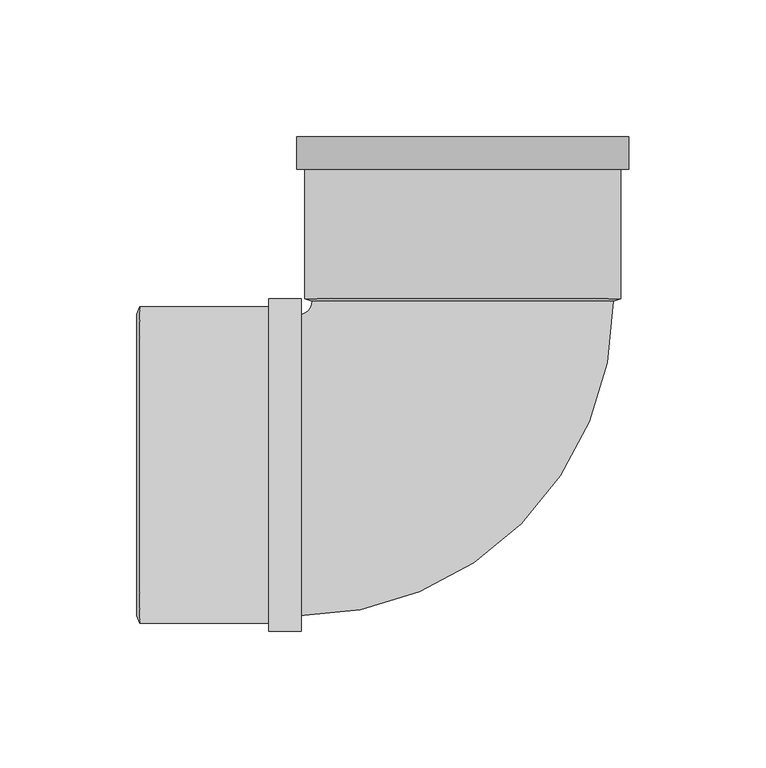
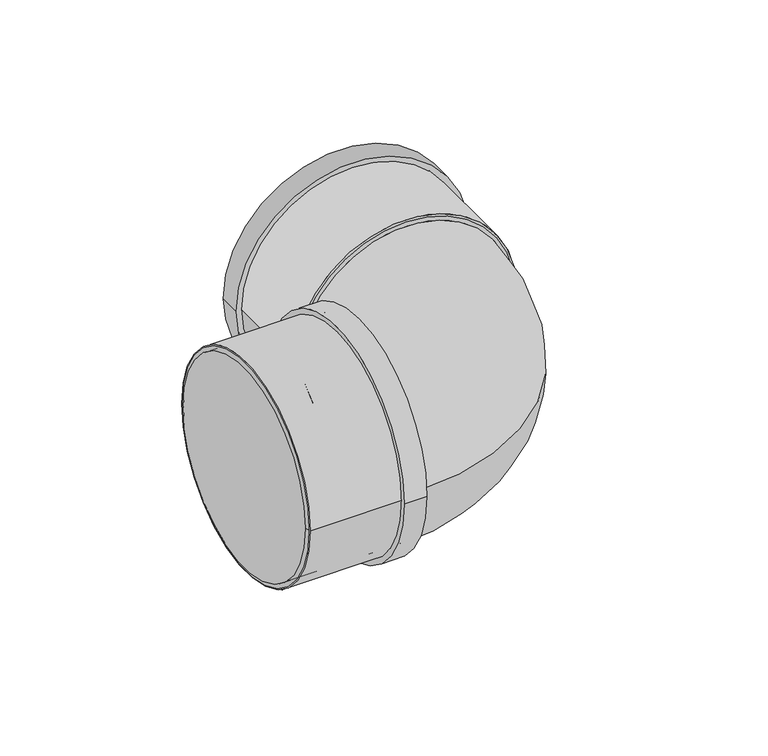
"""IFC4 building model written with IfcOpenShell, lengths in millimetres: pipe fitting geometry, Superdrain SK Bend_Composite 2x45 : Superdrain SK Bend_Composite 2x45."""

from ifc_helpers import new_model, si_unit, point, frame, origin, origin_2d, place, context, project, spatial, polyline, circle_curve, ellipse_curve, trimmed, segment, composite_curve, outline, extrude, source, transform, mapped, element, save
from ifc_brep_helpers import plane_surface, revolved_surface, advanced_brep


def pipe_fitting_02e017e1(model_context):
    return source(origin(), model_context, "Body", "SolidModel", [
        extrude(outline(composite_curve([segment(trimmed(circle_curve(origin_2d(), 57.75), [point((57.75, 0.0))], [point((-57.75, 0.0))], False, "CARTESIAN"), True, "CONTINUOUS"), segment(trimmed(circle_curve(origin_2d(), 57.75), [point((-57.75, 0.0))], [point((57.75, 0.0))], False, "CARTESIAN"), True, "CONTINUOUS")], self_intersect=False), holes=[composite_curve([segment(trimmed(circle_curve(origin_2d(), 55.0), [point((55.0, 0.0))], [point((-55.0, 0.0))], True, "CARTESIAN"), True, "CONTINUOUS"), segment(trimmed(circle_curve(origin_2d(), 55.0), [point((-55.0, 0.0))], [point((55.0, 0.0))], True, "CARTESIAN"), True, "CONTINUOUS")], self_intersect=False)]), frame((-118.0, 0.0, 0.0), z_axis=(1.0, 0.0, 0.0), x_axis=(0.0, 1.0, 0.0)), (0.0, 0.0, 1.0), 59.0),
        extrude(outline(composite_curve([segment(trimmed(circle_curve(origin_2d(), 60.6375), [point((60.6375, 0.0))], [point((-60.6375, 0.0))], False, "CARTESIAN"), True, "CONTINUOUS"), segment(trimmed(circle_curve(origin_2d(), 60.6375), [point((-60.6375, 0.0))], [point((60.6375, 0.0))], False, "CARTESIAN"), True, "CONTINUOUS")], self_intersect=False), holes=[composite_curve([segment(trimmed(circle_curve(origin_2d(), 55.0), [point((55.0, 0.0))], [point((-55.0, 0.0))], True, "CARTESIAN"), True, "CONTINUOUS"), segment(trimmed(circle_curve(origin_2d(), 55.0), [point((-55.0, 0.0))], [point((55.0, 0.0))], True, "CARTESIAN"), True, "CONTINUOUS")], self_intersect=False)]), frame((-70.8, 0.0, 0.0), z_axis=(1.0, 0.0, 0.0), x_axis=(0.0, 1.0, 0.0)), (0.0, 0.0, 1.0), 11.8),
        advanced_brep(
        [(-119.0, 55.0, 0.0), (-119.0, -55.0, 0.0), (-118.0, 57.75, 0.0), (-118.0, -57.75, 0.0)],
        [
            (0, 1, circle_curve(frame((-119.0, 0.0, 0.0), z_axis=(-1.0, 0.0, 0.0), x_axis=(0.0, 1.0, 0.0)), 55.0)),
            (1, 0, circle_curve(frame((-119.0, 0.0, 0.0), z_axis=(-1.0, 0.0, 0.0), x_axis=(0.0, -1.0, 0.0)), 55.0)),
            (2, 3, circle_curve(frame((-118.0, 0.0, 0.0), z_axis=(1.0, 0.0, 0.0), x_axis=(0.0, -1.0, 0.0)), 57.75)),
            (3, 2, circle_curve(frame((-118.0, 0.0, 0.0), z_axis=(1.0, 0.0, 0.0), x_axis=(0.0, 1.0, 0.0)), 57.75)),
            (3, 1),
            (0, 2),
        ],
        [
            plane_surface(frame((-119.0, 0.0, 0.0), z_axis=(-1.0, 0.0, 0.0), x_axis=(0.0, 0.0, -1.0))),
            plane_surface(frame((-118.0, 0.0, 0.0), z_axis=(1.0, 0.0, 0.0), x_axis=(0.0, 0.0, -1.0))),
            revolved_surface(polyline([(-119.0, 55.0, 0.0), (-118.0, 57.75, 0.0)]), (-139.0, 0.0, 0.0), (1.0, 0.0, 0.0)),
            revolved_surface(polyline([(-119.0, -55.0, 0.0), (-118.0, -57.75, 0.0)]), (-139.0, 0.0, 0.0), (1.0, 0.0, 0.0)),
        ],
        [
            (0, [[1, 2]]),
            (1, [[3, 4]]),
            (2, [[-4, 5, -1, 6]]),
            (3, [[-3, -6, -2, -5]]),
        ],
    ),
        advanced_brep(
        [(55.0, 59.8, 0.0), (-55.0, 59.8, 0.0), (-59.8, -55.0, 0.0), (-59.8, 55.0, 0.0)],
        [
            (0, 1, circle_curve(frame((0.0, 59.8, 0.0), z_axis=(0.0, 1.0, 0.0), x_axis=(-1.0, 0.0, 0.0)), 55.0)),
            (1, 0, circle_curve(frame((0.0, 59.8, 0.0), z_axis=(0.0, 1.0, 0.0), x_axis=(-1.0, 0.0, 0.0)), 55.0)),
            (2, 3, circle_curve(frame((-59.8, 0.0, 0.0), z_axis=(-1.0, 0.0, 0.0), x_axis=(0.0, 1.0, 0.0)), 55.0)),
            (3, 2, circle_curve(frame((-59.8, 0.0, 0.0), z_axis=(-1.0, 0.0, 0.0), x_axis=(0.0, 1.0, 0.0)), 55.0)),
            (3, 1, circle_curve(frame((-59.8, 59.8, 0.0), z_axis=(0.0, 0.0, 1.0), x_axis=(1.0, 0.0, 0.0)), 4.8)),
            (0, 2, circle_curve(frame((-59.8, 59.8, 0.0), z_axis=(0.0, 0.0, -1.0), x_axis=(1.0, 0.0, 0.0)), 114.8)),
        ],
        [
            plane_surface(frame((0.0, 59.8, 0.0), z_axis=(0.0, 1.0, 0.0), x_axis=(0.0, 0.0, -1.0))),
            plane_surface(frame((-59.8, 0.0, 0.0), z_axis=(-1.0, 0.0, 0.0), x_axis=(0.0, 0.0, -1.0))),
            revolved_surface(trimmed(ellipse_curve(frame((0.0, 59.8, 0.0), z_axis=(0.0, -1.0, 0.0), x_axis=(-1.0, 0.0, 0.0)), 55.0, 55.0), [point((-55.0, 59.8, 0.0))], [point((55.0, 59.8, 0.0))], True, "CARTESIAN"), (-59.8, 59.8, 0.0), (0.0, 0.0, 1.0)),
            revolved_surface(trimmed(ellipse_curve(frame((0.0, 59.8, 0.0), z_axis=(0.0, -1.0, 0.0), x_axis=(-1.0, 0.0, 0.0)), 55.0, 55.0), [point((55.0, 59.8, 0.0))], [point((-55.0, 59.8, 0.0))], True, "CARTESIAN"), (-59.8, 59.8, 0.0), (0.0, 0.0, 1.0)),
        ],
        [
            (0, [[1, 2]]),
            (1, [[3, 4]]),
            (2, [[-4, 5, -1, 6]]),
            (3, [[-3, -6, -2, -5]]),
        ],
    ),
        extrude(outline(composite_curve([segment(trimmed(circle_curve(origin_2d(), 57.75), [point((0.0, 57.75))], [point((0.0, -57.75))], False, "CARTESIAN"), True, "CONTINUOUS"), segment(trimmed(circle_curve(origin_2d(), 57.75), [point((0.0, -57.75))], [point((0.0, 57.75))], False, "CARTESIAN"), True, "CONTINUOUS")], self_intersect=False), holes=[composite_curve([segment(trimmed(circle_curve(origin_2d(), 55.0), [point((0.0, 55.0))], [point((0.0, -55.0))], True, "CARTESIAN"), True, "CONTINUOUS"), segment(trimmed(circle_curve(origin_2d(), 55.0), [point((0.0, -55.0))], [point((0.0, 55.0))], True, "CARTESIAN"), True, "CONTINUOUS")], self_intersect=False)]), frame((0.0, 60.8, 0.0), z_axis=(0.0, 1.0, 0.0), x_axis=(0.0, 0.0, 1.0)), (0.0, 0.0, 1.0), 59.0),
        extrude(outline(composite_curve([segment(trimmed(circle_curve(origin_2d(), 60.6375), [point((0.0, -60.6375))], [point((0.0, 60.6375))], False, "CARTESIAN"), True, "CONTINUOUS"), segment(trimmed(circle_curve(origin_2d(), 60.6375), [point((0.0, 60.6375))], [point((0.0, -60.6375))], False, "CARTESIAN"), True, "CONTINUOUS")], self_intersect=False), holes=[composite_curve([segment(trimmed(circle_curve(origin_2d(), 55.0), [point((0.0, -55.0))], [point((0.0, 55.0))], True, "CARTESIAN"), True, "CONTINUOUS"), segment(trimmed(circle_curve(origin_2d(), 55.0), [point((0.0, 55.0))], [point((0.0, -55.0))], True, "CARTESIAN"), True, "CONTINUOUS")], self_intersect=False)]), frame((0.0, 108.0, 0.0), z_axis=(0.0, 1.0, 0.0), x_axis=(0.0, 0.0, 1.0)), (0.0, 0.0, 1.0), 11.8),
        advanced_brep(
        [(57.75, 60.8, 0.0), (-57.75, 60.8, 0.0), (55.0, 59.8, 0.0), (-55.0, 59.8, 0.0)],
        [
            (0, 1, circle_curve(frame((0.0, 60.8, 0.0), z_axis=(0.0, 1.0, 0.0), x_axis=(1.0, 0.0, 0.0)), 57.75)),
            (1, 0, circle_curve(frame((0.0, 60.8, 0.0), z_axis=(0.0, 1.0, 0.0), x_axis=(-1.0, 0.0, 0.0)), 57.75)),
            (2, 3, circle_curve(frame((0.0, 59.8, 0.0), z_axis=(0.0, -1.0, 0.0), x_axis=(-1.0, 0.0, 0.0)), 55.0)),
            (3, 2, circle_curve(frame((0.0, 59.8, 0.0), z_axis=(0.0, -1.0, 0.0), x_axis=(1.0, 0.0, 0.0)), 55.0)),
            (3, 1),
            (0, 2),
        ],
        [
            plane_surface(frame((0.0, 60.8, 0.0), z_axis=(0.0, 1.0, 0.0), x_axis=(0.0, 0.0, -1.0))),
            plane_surface(frame((0.0, 59.8, 0.0), z_axis=(0.0, -1.0, 0.0), x_axis=(0.0, 0.0, -1.0))),
            revolved_surface(polyline([(-55.0, 59.8, 0.0), (-57.75, 60.8, 0.0)]), (0.0, 39.8, 0.0), (0.0, 1.0, 0.0)),
            revolved_surface(polyline([(55.0, 59.8, 0.0), (57.75, 60.8, 0.0)]), (0.0, 39.8, 0.0), (0.0, 1.0, 0.0)),
        ],
        [
            (0, [[1, 2]]),
            (1, [[3, 4]]),
            (2, [[-4, 5, -1, 6]]),
            (3, [[-3, -6, -2, -5]]),
        ],
    ),
        extrude(outline(composite_curve([segment(trimmed(circle_curve(origin_2d(), 55.0), [point((-55.0, 0.0))], [point((55.0, 0.0))], False, "CARTESIAN"), True, "CONTINUOUS"), segment(trimmed(circle_curve(origin_2d(), 55.0), [point((55.0, 0.0))], [point((-55.0, 0.0))], False, "CARTESIAN"), True, "CONTINUOUS")], self_intersect=False)), frame((-118.0, 0.0, 0.0), z_axis=(1.0, 0.0, 0.0), x_axis=(0.0, 1.0, 0.0)), (0.0, 0.0, 1.0), 58.2),
    ])


if __name__ == "__main__":
    model = new_model("IFC4")
    model_context = context("Model", 3, world=origin())
    ifc_project = project(units=[si_unit("LENGTHUNIT", "METRE", prefix="MILLI")], contexts=[model_context])
    site = spatial("IfcSite", under=ifc_project)
    building = spatial("IfcBuilding", under=site)
    placement = place(None, origin())
    pipe_fitting_shape = pipe_fitting_02e017e1(model_context)
    element("IfcPipeFitting", 1, ObjectType="Superdrain SK Bend_Composite 2x45 : Superdrain SK Bend_Composite 2x45", at=placement, inside=building, context=model_context, shape_type="MappedRepresentation", body=[
        mapped(pipe_fitting_shape, transform((0.0, 0.0, 0.0), x_axis=(1.0, 0.0, 0.0), y_axis=(0.0, 1.0, 0.0), z_axis=(0.0, 0.0, 1.0))),
    ])
    save(model, "model.ifc")
